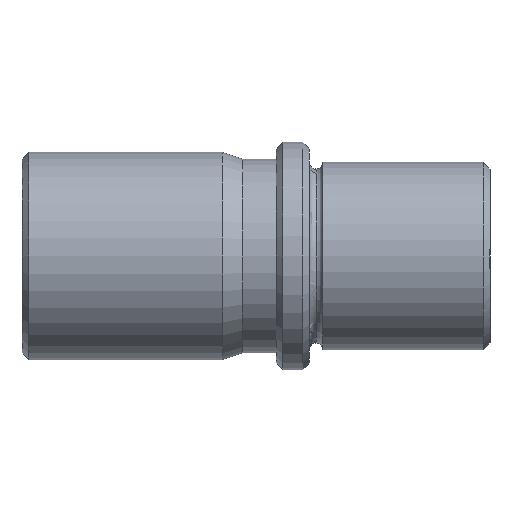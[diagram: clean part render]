
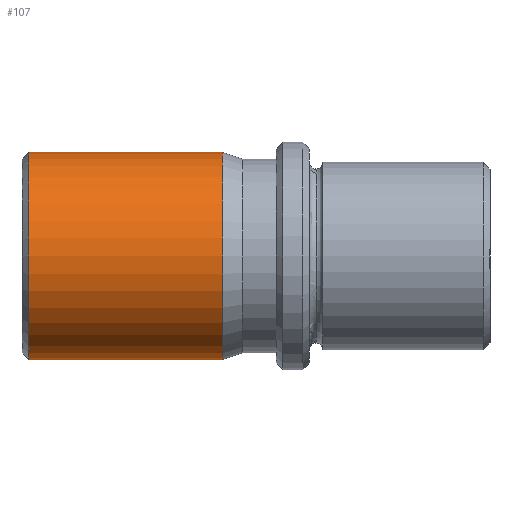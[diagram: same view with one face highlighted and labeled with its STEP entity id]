
A CAD part, left-side view. The second image highlights one B-rep face of the part: STEP entity #107.
In plain terms, the highlighted cylindrical face has radius 15.5 mm (diameter 31 mm), a partial arc.
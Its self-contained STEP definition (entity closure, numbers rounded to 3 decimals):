
#52=CARTESIAN_POINT('Axis2P3D Location',(0.,0.,0.)) ;
#57=CARTESIAN_POINT('Line Origine',(0.,0.,15.5)) ;
#61=CARTESIAN_POINT('Vertex',(0.,40.,15.5)) ;
#63=CARTESIAN_POINT('Vertex',(0.,69.,15.5)) ;
#66=CARTESIAN_POINT('Axis2P3D Location',(0.,69.,0.)) ;
#70=CARTESIAN_POINT('Vertex',(-15.5,69.,0.)) ;
#73=CARTESIAN_POINT('Axis2P3D Location',(0.,69.,0.)) ;
#77=CARTESIAN_POINT('Vertex',(0.,69.,-15.5)) ;
#80=CARTESIAN_POINT('Line Origine',(0.,0.,-15.5)) ;
#84=CARTESIAN_POINT('Vertex',(0.,40.,-15.5)) ;
#87=CARTESIAN_POINT('Axis2P3D Location',(0.,40.,0.)) ;
#91=CARTESIAN_POINT('Vertex',(-15.5,40.,0.)) ;
#94=CARTESIAN_POINT('Axis2P3D Location',(0.,40.,0.)) ;
#53=DIRECTION('Axis2P3D Direction',(0.,1.,0.)) ;
#54=DIRECTION('Axis2P3D XDirection',(0.,0.,-1.)) ;
#58=DIRECTION('Vector Direction',(0.,1.,0.)) ;
#67=DIRECTION('Axis2P3D Direction',(0.,1.,0.)) ;
#74=DIRECTION('Axis2P3D Direction',(0.,1.,0.)) ;
#81=DIRECTION('Vector Direction',(0.,1.,0.)) ;
#88=DIRECTION('Axis2P3D Direction',(0.,1.,0.)) ;
#95=DIRECTION('Axis2P3D Direction',(0.,1.,0.)) ;
#55=AXIS2_PLACEMENT_3D('Cylinder Axis2P3D',#52,#53,#54) ;
#68=AXIS2_PLACEMENT_3D('Circle Axis2P3D',#66,#67,$) ;
#75=AXIS2_PLACEMENT_3D('Circle Axis2P3D',#73,#74,$) ;
#89=AXIS2_PLACEMENT_3D('Circle Axis2P3D',#87,#88,$) ;
#96=AXIS2_PLACEMENT_3D('Circle Axis2P3D',#94,#95,$) ;
#100=ORIENTED_EDGE('',*,*,#65,.T.) ;
#101=ORIENTED_EDGE('',*,*,#72,.T.) ;
#102=ORIENTED_EDGE('',*,*,#79,.T.) ;
#103=ORIENTED_EDGE('',*,*,#86,.T.) ;
#104=ORIENTED_EDGE('',*,*,#93,.F.) ;
#105=ORIENTED_EDGE('',*,*,#98,.F.) ;
#59=VECTOR('Line Direction',#58,1.) ;
#82=VECTOR('Line Direction',#81,1.) ;
#107=ADVANCED_FACE('CF 450 19x70',(#106),#56,.T.) ;
#69=CIRCLE('generated circle',#68,15.5) ;
#76=CIRCLE('generated circle',#75,15.5) ;
#90=CIRCLE('generated circle',#89,15.5) ;
#97=CIRCLE('generated circle',#96,15.5) ;
#56=CYLINDRICAL_SURFACE('generated cylinder',#55,15.5) ;
#65=EDGE_CURVE('',#62,#64,#60,.T.) ;
#72=EDGE_CURVE('',#64,#71,#69,.F.) ;
#79=EDGE_CURVE('',#71,#78,#76,.F.) ;
#86=EDGE_CURVE('',#78,#85,#83,.F.) ;
#93=EDGE_CURVE('',#92,#85,#90,.F.) ;
#98=EDGE_CURVE('',#62,#92,#97,.F.) ;
#99=EDGE_LOOP('',(#100,#101,#102,#103,#104,#105)) ;
#106=FACE_OUTER_BOUND('',#99,.T.) ;
#60=LINE('Line',#57,#59) ;
#83=LINE('Line',#80,#82) ;
#62=VERTEX_POINT('',#61) ;
#64=VERTEX_POINT('',#63) ;
#71=VERTEX_POINT('',#70) ;
#78=VERTEX_POINT('',#77) ;
#85=VERTEX_POINT('',#84) ;
#92=VERTEX_POINT('',#91) ;
